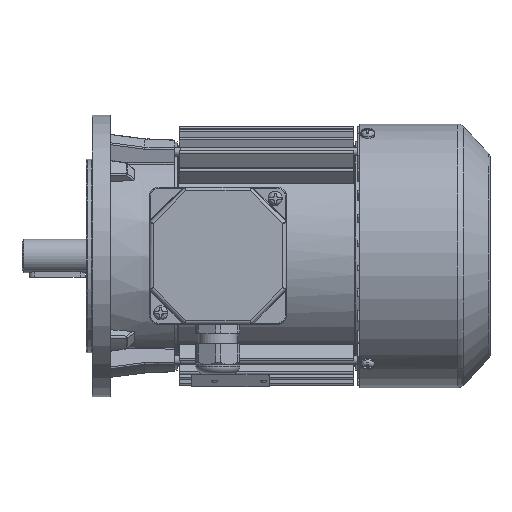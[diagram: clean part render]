
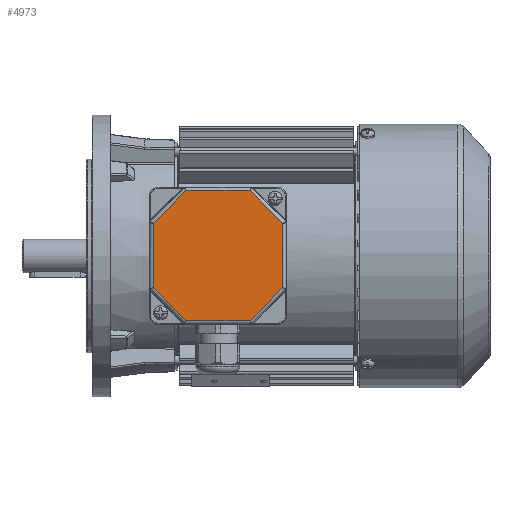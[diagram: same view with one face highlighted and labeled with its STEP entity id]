
A CAD part, top view. The second image highlights one B-rep face of the part: STEP entity #4973.
In plain terms, the highlighted planar face has unit normal (0, 0, 1).
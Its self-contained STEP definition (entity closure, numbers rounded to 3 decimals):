
#4973 = ADVANCED_FACE( '', ( #11484 ), #11485, .T. );
#11484 = FACE_OUTER_BOUND( '', #31657, .T. );
#11485 = PLANE( '', #31658 );
#31657 = EDGE_LOOP( '', ( #71378, #71379, #71380, #71381, #71382, #71383, #71384, #71385 ) );
#31658 = AXIS2_PLACEMENT_3D( '', #71386, #71387, #71388 );
#71378 = ORIENTED_EDGE( '', *, *, #91358, .T. );
#71379 = ORIENTED_EDGE( '', *, *, #91359, .T. );
#71380 = ORIENTED_EDGE( '', *, *, #91360, .T. );
#71381 = ORIENTED_EDGE( '', *, *, #91361, .T. );
#71382 = ORIENTED_EDGE( '', *, *, #91362, .T. );
#71383 = ORIENTED_EDGE( '', *, *, #91363, .T. );
#71384 = ORIENTED_EDGE( '', *, *, #91364, .T. );
#71385 = ORIENTED_EDGE( '', *, *, #91365, .T. );
#71386 = CARTESIAN_POINT( '', ( -39., 39., 12. ) );
#71387 = DIRECTION( '', ( 0., 0., 1. ) );
#71388 = DIRECTION( '', ( 1., 0., 0. ) );
#91358 = EDGE_CURVE( '', #103806, #103265, #103807, .F. );
#91359 = EDGE_CURVE( '', #103265, #103808, #103809, .T. );
#91360 = EDGE_CURVE( '', #103808, #103810, #103811, .F. );
#91361 = EDGE_CURVE( '', #103810, #103812, #103813, .T. );
#91362 = EDGE_CURVE( '', #103812, #103814, #103815, .F. );
#91363 = EDGE_CURVE( '', #103814, #103816, #103817, .T. );
#91364 = EDGE_CURVE( '', #103816, #103818, #103819, .F. );
#91365 = EDGE_CURVE( '', #103818, #103806, #103820, .T. );
#103265 = VERTEX_POINT( '', #130982 );
#103806 = VERTEX_POINT( '', #132894 );
#103807 = LINE( '', #132895, #132896 );
#103808 = VERTEX_POINT( '', #132897 );
#103809 = LINE( '', #132898, #132899 );
#103810 = VERTEX_POINT( '', #132900 );
#103811 = LINE( '', #132901, #132902 );
#103812 = VERTEX_POINT( '', #132903 );
#103813 = LINE( '', #132904, #132905 );
#103814 = VERTEX_POINT( '', #132906 );
#103815 = LINE( '', #132907, #132908 );
#103816 = VERTEX_POINT( '', #132909 );
#103817 = LINE( '', #132910, #132911 );
#103818 = VERTEX_POINT( '', #132912 );
#103819 = LINE( '', #132913, #132914 );
#103820 = LINE( '', #132915, #132916 );
#130982 = CARTESIAN_POINT( '', ( 36.825, 18.255, 12. ) );
#132894 = CARTESIAN_POINT( '', ( 36.825, -18.255, 12. ) );
#132895 = CARTESIAN_POINT( '', ( 36.825, 19.069, 12. ) );
#132896 = VECTOR( '', #160612, 1000. );
#132897 = CARTESIAN_POINT( '', ( 18.255, 36.825, 12. ) );
#132898 = CARTESIAN_POINT( '', ( 17.679, 37.401, 12. ) );
#132899 = VECTOR( '', #160613, 1000. );
#132900 = CARTESIAN_POINT( '', ( -18.255, 36.825, 12. ) );
#132901 = CARTESIAN_POINT( '', ( -19.069, 36.825, 12. ) );
#132902 = VECTOR( '', #160614, 1000. );
#132903 = CARTESIAN_POINT( '', ( -36.825, 18.255, 12. ) );
#132904 = CARTESIAN_POINT( '', ( -37.401, 17.679, 12. ) );
#132905 = VECTOR( '', #160615, 1000. );
#132906 = CARTESIAN_POINT( '', ( -36.825, -18.255, 12. ) );
#132907 = CARTESIAN_POINT( '', ( -36.825, -19.069, 12. ) );
#132908 = VECTOR( '', #160616, 1000. );
#132909 = CARTESIAN_POINT( '', ( -18.255, -36.825, 12. ) );
#132910 = CARTESIAN_POINT( '', ( -17.679, -37.401, 12. ) );
#132911 = VECTOR( '', #160617, 1000. );
#132912 = CARTESIAN_POINT( '', ( 18.255, -36.825, 12. ) );
#132913 = CARTESIAN_POINT( '', ( 19.069, -36.825, 12. ) );
#132914 = VECTOR( '', #160618, 1000. );
#132915 = CARTESIAN_POINT( '', ( 37.401, -17.679, 12. ) );
#132916 = VECTOR( '', #160619, 1000. );
#160612 = DIRECTION( '', ( 0., -1., 0. ) );
#160613 = DIRECTION( '', ( -0.707, 0.707, 0. ) );
#160614 = DIRECTION( '', ( 1., 0., 0. ) );
#160615 = DIRECTION( '', ( -0.707, -0.707, 0. ) );
#160616 = DIRECTION( '', ( 0., 1., 0. ) );
#160617 = DIRECTION( '', ( 0.707, -0.707, 0. ) );
#160618 = DIRECTION( '', ( -1., 0., 0. ) );
#160619 = DIRECTION( '', ( 0.707, 0.707, 0. ) );
